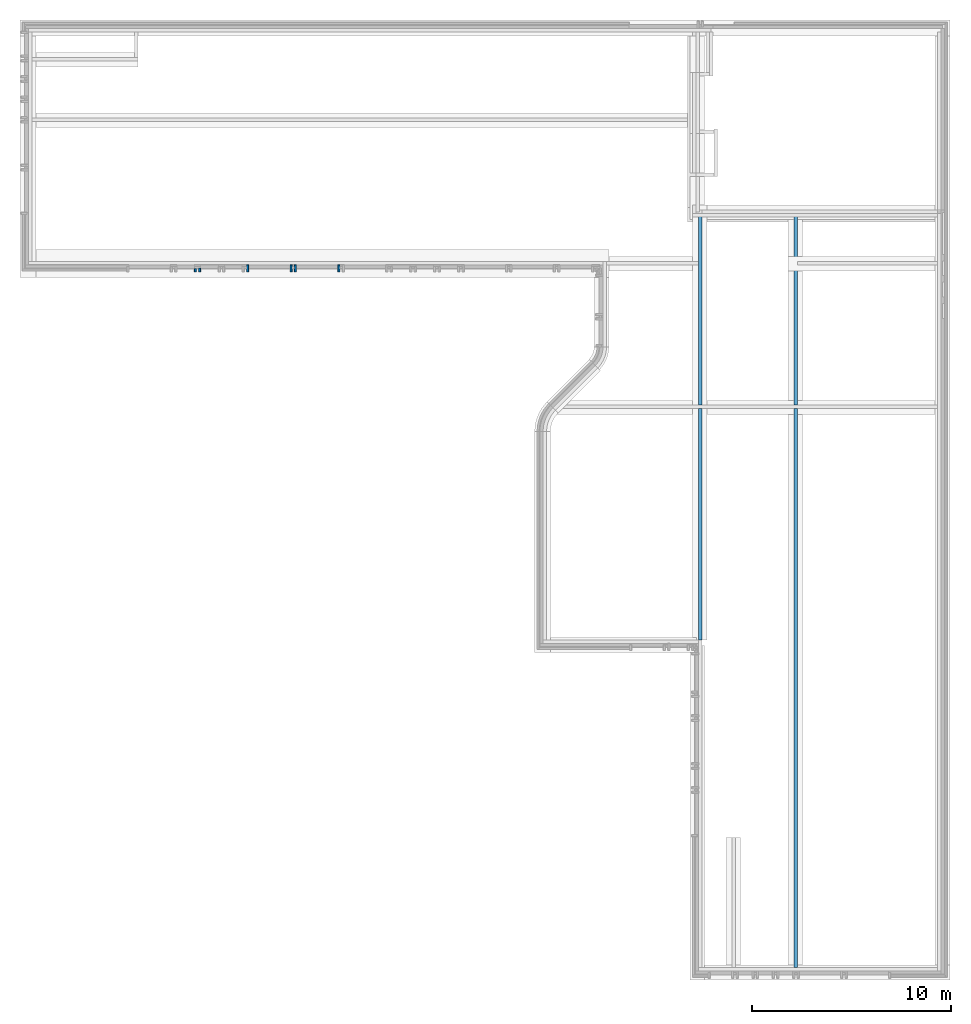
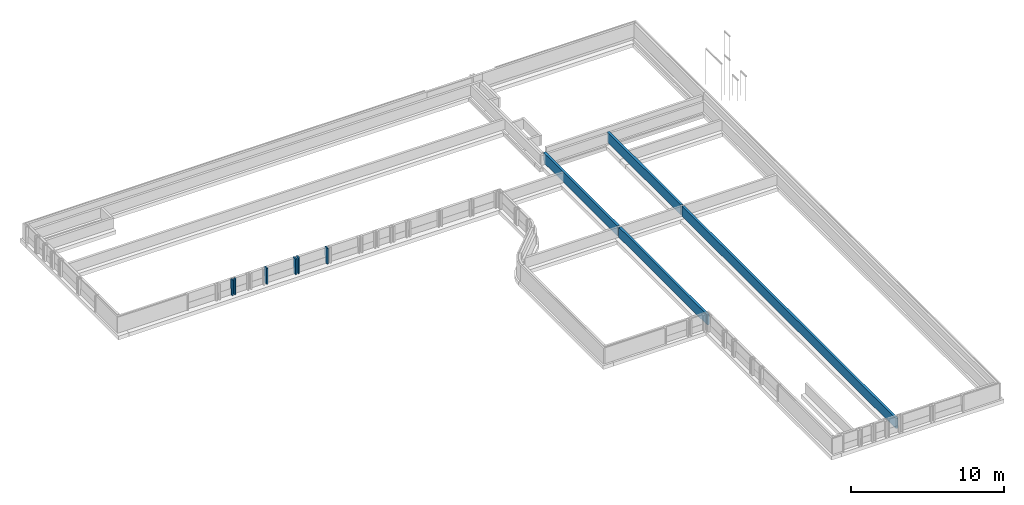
# One storey, part 11 of 15: 8 walls.
"""IFC2X3 building model written with IfcOpenShell, lengths in millimetres."""

from ifc_helpers import new_model, entity, si_unit, converted_unit, derived_unit, direction, frame, origin, place, context, subcontext, project, spatial, faceted_brep, material, layer, layer_set, type_object, element, save


model = new_model("IFC2X3")

# Units and contexts
model_context = context("Model", 3, precision=0.01, world=origin(), true_north=direction((6.123031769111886e-17, 1.0)))
body_context = subcontext(model_context, "Body", "Model", "MODEL_VIEW")
ifc_project = project(units=[si_unit("LENGTHUNIT", "METRE", prefix="MILLI"), si_unit("AREAUNIT", "SQUARE_METRE"), si_unit("VOLUMEUNIT", "CUBIC_METRE"), converted_unit("PLANEANGLEUNIT", "DEGREE", entity("IfcRatioMeasure", 0.017453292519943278), si_unit("PLANEANGLEUNIT", "RADIAN"), dimensions=[0, 0, 0, 0, 0, 0, 0]), si_unit("MASSUNIT", "GRAM", prefix="KILO"), derived_unit("MASSDENSITYUNIT", [(si_unit("MASSUNIT", "GRAM", prefix="KILO"), 1), (si_unit("LENGTHUNIT", "METRE"), -3)]), derived_unit("IONCONCENTRATIONUNIT", [(si_unit("MASSUNIT", "GRAM", prefix="KILO"), 1), (si_unit("LENGTHUNIT", "METRE"), -3)]), derived_unit("MOMENTOFINERTIAUNIT", [(si_unit("LENGTHUNIT", "METRE"), 4)]), si_unit("TIMEUNIT", "SECOND"), si_unit("FREQUENCYUNIT", "HERTZ"), si_unit("THERMODYNAMICTEMPERATUREUNIT", "DEGREE_CELSIUS"), derived_unit("THERMALTRANSMITTANCEUNIT", [(si_unit("MASSUNIT", "GRAM", prefix="KILO"), 1), (si_unit("THERMODYNAMICTEMPERATUREUNIT", "KELVIN"), -1), (si_unit("TIMEUNIT", "SECOND"), -3)]), derived_unit("THERMALCONDUCTANCEUNIT", [(si_unit("MASSUNIT", "GRAM", prefix="KILO"), 1), (si_unit("THERMODYNAMICTEMPERATUREUNIT", "KELVIN"), -1), (si_unit("TIMEUNIT", "SECOND"), -3), (si_unit("LENGTHUNIT", "METRE"), 1)]), derived_unit("VOLUMETRICFLOWRATEUNIT", [(si_unit("LENGTHUNIT", "METRE"), 3), (si_unit("TIMEUNIT", "SECOND"), -1)]), derived_unit("MASSFLOWRATEUNIT", [(si_unit("MASSUNIT", "GRAM", prefix="KILO"), 1), (si_unit("TIMEUNIT", "SECOND"), -1)]), derived_unit("ROTATIONALFREQUENCYUNIT", [(si_unit("TIMEUNIT", "SECOND"), -1)]), si_unit("ELECTRICCURRENTUNIT", "AMPERE"), si_unit("ELECTRICVOLTAGEUNIT", "VOLT"), si_unit("POWERUNIT", "WATT"), si_unit("FORCEUNIT", "NEWTON", prefix="KILO"), si_unit("ILLUMINANCEUNIT", "LUX"), si_unit("LUMINOUSFLUXUNIT", "LUMEN"), si_unit("LUMINOUSINTENSITYUNIT", "CANDELA"), derived_unit("USERDEFINED", [(si_unit("MASSUNIT", "GRAM", prefix="KILO"), -1), (si_unit("LENGTHUNIT", "METRE"), -2), (si_unit("TIMEUNIT", "SECOND"), 3), (si_unit("LUMINOUSFLUXUNIT", "LUMEN"), 1)]), derived_unit("USERDEFINED", [(si_unit("MASSUNIT", "GRAM", prefix="KILO"), 1), (si_unit("TIMEUNIT", "SECOND"), -3), (si_unit("LENGTHUNIT", "METRE"), 3), (si_unit("ELECTRICCURRENTUNIT", "AMPERE"), -2)]), derived_unit("SOUNDPOWERUNIT", [(si_unit("MASSUNIT", "GRAM", prefix="KILO"), 1), (si_unit("TIMEUNIT", "SECOND"), -3), (si_unit("LENGTHUNIT", "METRE"), 2)]), derived_unit("SOUNDPRESSUREUNIT", [(si_unit("MASSUNIT", "GRAM", prefix="KILO"), 1), (si_unit("LENGTHUNIT", "METRE"), -1), (si_unit("TIMEUNIT", "SECOND"), -2)]), derived_unit("LINEARVELOCITYUNIT", [(si_unit("LENGTHUNIT", "METRE"), 1), (si_unit("TIMEUNIT", "SECOND"), -1)]), si_unit("PRESSUREUNIT", "PASCAL"), derived_unit("USERDEFINED", [(si_unit("MASSUNIT", "GRAM", prefix="KILO"), 1), (si_unit("LENGTHUNIT", "METRE"), -2), (si_unit("TIMEUNIT", "SECOND"), -2)]), derived_unit("LINEARFORCEUNIT", [(si_unit("MASSUNIT", "GRAM", prefix="KILO"), 1), (si_unit("TIMEUNIT", "SECOND"), -2)]), derived_unit("PLANARFORCEUNIT", [(si_unit("MASSUNIT", "GRAM", prefix="KILO"), 1), (si_unit("LENGTHUNIT", "METRE"), -1), (si_unit("TIMEUNIT", "SECOND"), -2)]), derived_unit("SPECIFICHEATCAPACITYUNIT", [(si_unit("THERMODYNAMICTEMPERATUREUNIT", "KELVIN"), -1), (si_unit("LENGTHUNIT", "METRE"), 2), (si_unit("TIMEUNIT", "SECOND"), -2)]), derived_unit("HEATINGVALUEUNIT", [(si_unit("LENGTHUNIT", "METRE"), 2), (si_unit("TIMEUNIT", "SECOND"), -2)]), derived_unit("VAPORPERMEABILITYUNIT", [(si_unit("LENGTHUNIT", "METRE"), -1), (si_unit("TIMEUNIT", "SECOND"), 1)]), derived_unit("DYNAMICVISCOSITYUNIT", [(si_unit("MASSUNIT", "GRAM", prefix="KILO"), 1), (si_unit("TIMEUNIT", "SECOND"), -1), (si_unit("LENGTHUNIT", "METRE"), -1)]), derived_unit("THERMALEXPANSIONCOEFFICIENTUNIT", [(si_unit("THERMODYNAMICTEMPERATUREUNIT", "KELVIN"), -1)]), derived_unit("MODULUSOFELASTICITYUNIT", [(si_unit("MASSUNIT", "GRAM", prefix="KILO"), 1), (si_unit("LENGTHUNIT", "METRE"), -1), (si_unit("TIMEUNIT", "SECOND"), -2)]), derived_unit("ISOTHERMALMOISTURECAPACITYUNIT", [(si_unit("LENGTHUNIT", "METRE"), 3), (si_unit("MASSUNIT", "GRAM", prefix="KILO"), -1)]), derived_unit("MOISTUREDIFFUSIVITYUNIT", [(si_unit("TIMEUNIT", "SECOND"), -1), (si_unit("LENGTHUNIT", "METRE"), 2)])], contexts=[model_context])

# Site, building, storey
site_placement = place(None, frame((0.0, 300.0, 0.0)))
site = spatial("IfcSite", under=ifc_project, at=site_placement, Name="<Kadastrale nummers>", CompositionType="ELEMENT")
building_placement = place(site_placement, origin())
building = spatial("IfcBuilding", under=site, at=building_placement, CompositionType="ELEMENT")
storey_placement = place(building_placement, frame((0.0, 0.0, -1570.0)))
storey = spatial("IfcBuildingStorey", under=building, at=storey_placement, Name="-1 fundering", CompositionType="ELEMENT", Elevation=-1570.0)

# Walls
ifc_material_1 = material(Name="ISR_Metselwerk")
ifc_layer_1 = layer(ifc_material_1, 100.0)
ifc_layer_set_1 = layer_set([ifc_layer_1], Name="Basic Wall:21_DAT_metselwerk_100")
wall_type_1 = type_object("IfcWallType", Name="Basic Wall:21_DAT_metselwerk_100", PredefinedType="STANDARD", material=ifc_layer_set_1)
wall_1_placement = place(storey_placement, frame((11290.0, 37840.0, 300.0), z_axis=(0.0, 0.0, 1.0), x_axis=(0.0, -1.0, 0.0)))
element("IfcWall", 1, at=wall_1_placement, inside=storey, type_object=wall_type_1, Name="Basic Wall:21_DAT_metselwerk_100", ObjectType="Basic Wall:21_DAT_metselwerk_100", context=body_context, shape_type="Brep", body=[
    faceted_brep([(15.0, -50.0, 0.0), (165.0, -50.0, 0.0), (165.0, -50.0, 1270.0), (0.0, -50.0, 1270.0), (0.0, -50.0, 500.0), (5.0, -50.0, 500.0), (15.0, -50.0, 500.0), (165.0, 50.0, 0.0), (15.0, 50.0, 0.0), (15.0, 50.0, 500.0), (0.0, 50.0, 500.0), (0.0, 50.0, 1270.0), (165.0, 50.0, 1270.0)], [[[0, 1, 2, 3, 4, 5, 6]], [[7, 8, 9, 10, 11, 12]], [[1, 0, 8, 7]], [[2, 1, 7, 12]], [[3, 2, 12, 11]], [[10, 9, 6, 5, 4]], [[0, 6, 9, 8]], [[3, 11, 10, 4]]]),
])
wall_2_placement = place(storey_placement, frame((11510.0, 37865.0, 300.0), z_axis=(0.0, 0.0, 1.0), x_axis=(0.0, -1.0, 0.0)))
element("IfcWall", 2, at=wall_2_placement, inside=storey, type_object=wall_type_1, Name="Basic Wall:21_DAT_metselwerk_100", ObjectType="Basic Wall:21_DAT_metselwerk_100", context=body_context, shape_type="Brep", body=[
    faceted_brep([(40.0, -50.0, 0.0), (190.0, -50.0, 0.0), (190.0, -50.0, 1270.0), (25.0, -50.0, 1270.0), (25.0, -50.0, 1225.0), (0.0, -50.0, 1225.0), (0.0, -50.0, 600.0), (25.0, -50.0, 600.0), (25.0, -50.0, 500.0), (40.0, -50.0, 500.0), (40.0, 50.0, 0.0), (40.0, 50.0, 500.0), (30.0, 50.0, 500.0), (25.0, 50.0, 500.0), (25.0, 50.0, 600.0), (0.0, 50.0, 600.0), (0.0, 50.0, 1225.0), (25.0, 50.0, 1225.0), (25.0, 50.0, 1270.0), (190.0, 50.0, 1270.0), (190.0, 50.0, 0.0)], [[[0, 1, 2, 3, 4, 5, 6, 7, 8, 9]], [[10, 11, 12, 13, 14, 15, 16, 17, 18, 19, 20]], [[1, 0, 10, 20]], [[2, 1, 20, 19]], [[3, 2, 19, 18]], [[8, 13, 12, 11, 9]], [[6, 15, 14, 7]], [[4, 17, 16, 5]], [[0, 9, 11, 10]], [[8, 7, 14, 13]], [[6, 5, 16, 15]], [[4, 3, 18, 17]]]),
])
wall_3_placement = place(storey_placement, frame((13910.0, 38025.0, 300.0), z_axis=(0.0, 0.0, 1.0), x_axis=(0.0, -1.0, 0.0)))
element("IfcWall", 3, at=wall_3_placement, inside=storey, type_object=wall_type_1, Name="Basic Wall:21_DAT_metselwerk_100", ObjectType="Basic Wall:21_DAT_metselwerk_100", context=body_context, shape_type="Brep", body=[
    faceted_brep([(85.0, -50.0, 0.0), (185.0, -50.0, 0.0), (350.0, -50.0, 0.0), (350.0, -50.0, 1270.0), (185.0, -50.0, 1270.0), (85.0, -50.0, 1270.0), (85.0, -50.0, 1230.0), (0.0, -50.0, 1230.0), (0.0, -50.0, 500.0), (85.0, -50.0, 500.0), (85.0, 50.0, 0.0), (85.0, 50.0, 500.0), (0.0, 50.0, 500.0), (0.0, 50.0, 1230.0), (85.0, 50.0, 1230.0), (85.0, 50.0, 1270.0), (350.0, 50.0, 1270.0), (350.0, 50.0, 0.0)], [[[0, 1, 2, 3, 4, 5, 6, 7, 8, 9]], [[10, 11, 12, 13, 14, 15, 16, 17]], [[2, 1, 0, 10, 17]], [[3, 2, 17, 16]], [[5, 4, 3, 16, 15]], [[8, 12, 11, 9]], [[6, 14, 13, 7]], [[0, 9, 11, 10]], [[8, 7, 13, 12]], [[6, 5, 15, 14]]]),
])
wall_4_placement = place(storey_placement, frame((16090.0, 38025.0, 300.0), z_axis=(0.0, 0.0, 1.0), x_axis=(0.0, -1.0, 0.0)))
element("IfcWall", 4, at=wall_4_placement, inside=storey, type_object=wall_type_1, Name="Basic Wall:21_DAT_metselwerk_100", ObjectType="Basic Wall:21_DAT_metselwerk_100", context=body_context, shape_type="Brep", body=[
    faceted_brep([(85.0, -50.0, 0.0), (350.0, -50.0, 0.0), (350.0, -50.0, 1270.0), (85.0, -50.0, 1270.0), (85.0, -50.0, 1230.0), (0.0, -50.0, 1230.0), (0.0, -50.0, 500.0), (85.0, -50.0, 500.0), (85.0, 50.0, 0.0), (85.0, 50.0, 500.0), (0.0, 50.0, 500.0), (0.0, 50.0, 1230.0), (85.0, 50.0, 1230.0), (85.0, 50.0, 1270.0), (185.0, 50.0, 1270.0), (350.0, 50.0, 1270.0), (350.0, 50.0, 0.0), (185.0, 50.0, 0.0)], [[[0, 1, 2, 3, 4, 5, 6, 7]], [[8, 9, 10, 11, 12, 13, 14, 15, 16, 17]], [[1, 0, 8, 17, 16]], [[2, 1, 16, 15]], [[3, 2, 15, 14, 13]], [[6, 10, 9, 7]], [[4, 12, 11, 5]], [[0, 7, 9, 8]], [[6, 5, 11, 10]], [[4, 3, 13, 12]]]),
])
wall_5_placement = place(storey_placement, frame((16310.0, 38025.0, 300.0), z_axis=(0.0, 0.0, 1.0), x_axis=(0.0, -1.0, 0.0)))
element("IfcWall", 5, at=wall_5_placement, inside=storey, type_object=wall_type_1, Name="Basic Wall:21_DAT_metselwerk_100", ObjectType="Basic Wall:21_DAT_metselwerk_100", context=body_context, shape_type="Brep", body=[
    faceted_brep([(85.0, -50.0, 0.0), (185.0, -50.0, 0.0), (350.0, -50.0, 0.0), (350.0, -50.0, 1270.0), (185.0, -50.0, 1270.0), (85.0, -50.0, 1270.0), (85.0, -50.0, 1230.0), (0.0, -50.0, 1230.0), (0.0, -50.0, 500.0), (85.0, -50.0, 500.0), (85.0, 50.0, 0.0), (85.0, 50.0, 500.0), (0.0, 50.0, 500.0), (0.0, 50.0, 1230.0), (85.0, 50.0, 1230.0), (85.0, 50.0, 1270.0), (350.0, 50.0, 1270.0), (350.0, 50.0, 0.0)], [[[0, 1, 2, 3, 4, 5, 6, 7, 8, 9]], [[10, 11, 12, 13, 14, 15, 16, 17]], [[2, 1, 0, 10, 17]], [[3, 2, 17, 16]], [[5, 4, 3, 16, 15]], [[8, 12, 11, 9]], [[6, 14, 13, 7]], [[0, 9, 11, 10]], [[8, 7, 13, 12]], [[6, 5, 15, 14]]]),
])
wall_6_placement = place(storey_placement, frame((18490.0, 38025.0, 300.0), z_axis=(0.0, 0.0, 1.0), x_axis=(0.0, -1.0, 0.0)))
element("IfcWall", 6, at=wall_6_placement, inside=storey, type_object=wall_type_1, Name="Basic Wall:21_DAT_metselwerk_100", ObjectType="Basic Wall:21_DAT_metselwerk_100", context=body_context, shape_type="Brep", body=[
    faceted_brep([(85.0, -50.0, 0.0), (350.0, -50.0, 0.0), (350.0, -50.0, 1270.0), (85.0, -50.0, 1270.0), (85.0, -50.0, 1230.0), (0.0, -50.0, 1230.0), (0.0, -50.0, 500.0), (85.0, -50.0, 500.0), (85.0, 50.0, 0.0), (85.0, 50.0, 500.0), (0.0, 50.0, 500.0), (0.0, 50.0, 1230.0), (85.0, 50.0, 1230.0), (85.0, 50.0, 1270.0), (185.0, 50.0, 1270.0), (350.0, 50.0, 1270.0), (350.0, 50.0, 0.0), (185.0, 50.0, 0.0)], [[[0, 1, 2, 3, 4, 5, 6, 7]], [[8, 9, 10, 11, 12, 13, 14, 15, 16, 17]], [[1, 0, 8, 17, 16]], [[2, 1, 16, 15]], [[3, 2, 15, 14, 13]], [[6, 10, 9, 7]], [[4, 12, 11, 5]], [[0, 7, 9, 8]], [[6, 5, 11, 10]], [[4, 3, 13, 12]]]),
])
ifc_material_2 = material(Name="ISR_Gips")
ifc_layer_2 = layer(ifc_material_2, 1.0)
ifc_material_3 = material(Name="ISR_Kalkzandsteen")
ifc_layer_3 = layer(ifc_material_3, 173.0)
ifc_layer_4 = layer(ifc_material_2, 1.0)
ifc_layer_set_2 = layer_set([ifc_layer_2, ifc_layer_3, ifc_layer_4], Name="Basic Wall:28_DAT_kalkzandsteen_175mm")
wall_type_2 = type_object("IfcWallType", Name="Basic Wall:28_DAT_kalkzandsteen_175mm", PredefinedType="STANDARD", material=ifc_layer_set_2)
wall_7_placement = place(storey_placement, frame((36612.50000000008, 40685.0, 300.0), z_axis=(0.0, 0.0, 1.0), x_axis=(0.0, -1.0, 0.0)))
element("IfcWall", 7, at=wall_7_placement, inside=storey, type_object=wall_type_2, Name="Basic Wall:28_DAT_kalkzandsteen_175mm", ObjectType="Basic Wall:28_DAT_kalkzandsteen_175mm", context=body_context, shape_type="Brep", body=[
    faceted_brep([(0.0, -87.49999999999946, 800.0), (0.0, -87.49999999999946, 188.0), (90.0, -87.49999999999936, 188.0), (90.0, -87.49999999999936, 0.0), (2485.0, -87.50000000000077, 0.0), (2660.0, -87.50000000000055, 0.0), (9697.500000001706, -87.50000000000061, 0.0), (9697.500000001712, -87.50000000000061, 800.0), (2660.0, -87.50000000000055, 800.0), (2485.0, -87.50000000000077, 800.0), (90.0, 87.49999999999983, 0.0), (9697.500000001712, 87.49999999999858, 0.0), (9697.500000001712, 87.49999999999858, 800.0), (0.0, -57.46006211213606, 800.0), (0.0, 87.49999999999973, 800.0), (0.0, 87.49999999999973, 188.0), (0.0, -57.46006211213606, 188.0), (90.0, 87.49999999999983, 188.0)], [[[0, 1, 2, 3, 4, 5, 6, 7, 8, 9]], [[3, 10, 11, 6, 5, 4]], [[7, 6, 11, 12]], [[0, 13, 14, 15, 16, 1]], [[1, 16, 15, 17, 2]], [[10, 3, 2, 17]], [[14, 13, 0, 9, 8, 7, 12]], [[15, 14, 12, 11, 10, 17]]]),
    faceted_brep([(21455.001376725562, 87.49999999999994, 800.0), (21455.001376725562, 87.49999999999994, 0.0), (9872.50000000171, 87.49999999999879, 0.0), (9872.500000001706, 87.49999999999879, 800.0), (21455.001376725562, -87.49999999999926, 800.0), (9872.500000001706, -87.50000000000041, 800.0), (9872.500000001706, -87.50000000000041, 0.0), (21455.001376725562, -87.49999999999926, 0.0)], [[[0, 1, 2, 3]], [[4, 0, 3, 5]], [[6, 5, 3, 2]], [[4, 7, 1, 0]], [[1, 7, 6, 2]], [[7, 4, 5, 6]]]),
])
wall_8_placement = place(storey_placement, frame((41400.0, 40649.99947471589, 300.0), z_axis=(0.0, 0.0, 1.0), x_axis=(0.0, -1.0, 0.0)))
element("IfcWall", 8, at=wall_8_placement, inside=storey, type_object=wall_type_2, Name="Basic Wall:28_DAT_kalkzandsteen_175mm", ObjectType="Basic Wall:28_DAT_kalkzandsteen_175mm", context=body_context, shape_type="Brep", body=[
    faceted_brep([(0.0, -87.50000000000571, 670.0), (54.999474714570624, -87.50000000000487, 670.0), (54.999474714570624, -87.50000000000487, 0.0), (9662.499474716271, -87.50000000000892, 0.0), (9662.499474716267, -87.50000000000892, 800.0), (0.0, -87.50000000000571, 800.0), (54.999474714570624, 87.49999999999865, 0.0), (2449.999474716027, 87.4999999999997, 0.0), (2624.9994747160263, 87.5000000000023, 0.0), (9662.499474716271, 87.49999999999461, 0.0), (9662.499474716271, 87.49999999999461, 800.0), (0.0, 87.49999999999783, 670.0), (54.999474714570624, 87.49999999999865, 670.0), (0.0, 87.49999999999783, 800.0), (2624.999474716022, 87.5000000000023, 800.0), (2449.999474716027, 87.4999999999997, 800.0)], [[[0, 1, 2, 3, 4, 5]], [[2, 6, 7, 8, 9, 3]], [[4, 3, 9, 10]], [[11, 12, 1, 0]], [[6, 2, 1, 12]], [[5, 13, 11, 0]], [[13, 5, 4, 10, 14, 15]], [[12, 11, 13, 15, 14, 10, 9, 8, 7, 6]]]),
    faceted_brep([(37850.00085144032, 87.499999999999, 800.0), (37850.00085144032, 87.499999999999, 0.0), (9837.499474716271, 87.49999999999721, 0.0), (9837.499474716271, 87.49999999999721, 800.0), (37850.00085144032, -87.50000000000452, 800.0), (9837.499474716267, -87.50000000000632, 800.0), (37850.00085144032, -87.50000000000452, 0.0), (9837.499474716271, -87.50000000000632, 0.0)], [[[0, 1, 2, 3]], [[4, 0, 3, 5]], [[4, 6, 1, 0]], [[7, 5, 3, 2]], [[1, 6, 7, 2]], [[6, 4, 5, 7]]]),
])

save(model, "model.ifc")
